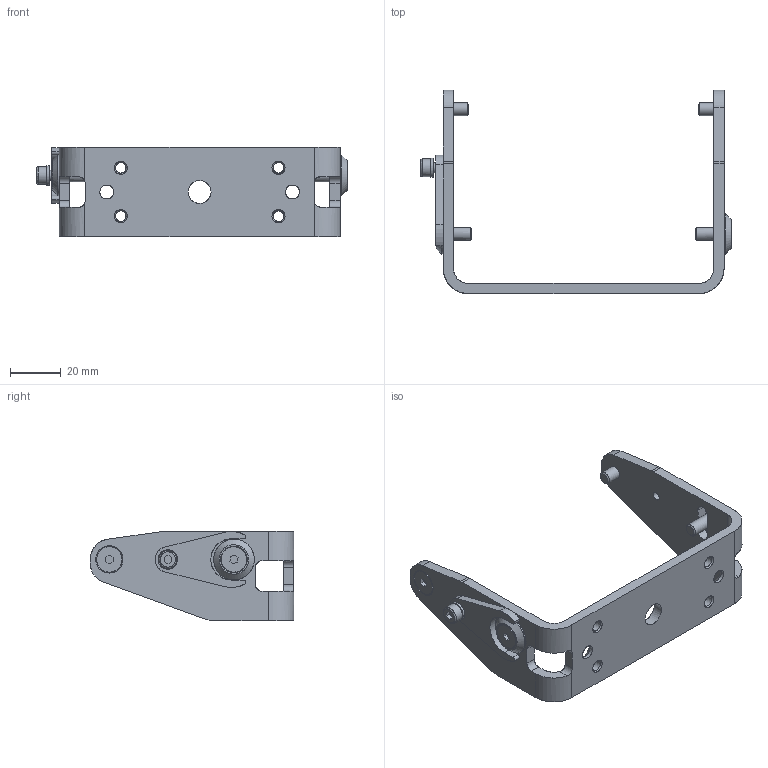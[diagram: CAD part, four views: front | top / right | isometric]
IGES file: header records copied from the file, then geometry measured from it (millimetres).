
Global section: file name: D:\CS\IDF\PCB\DSD-0813.igs; native system: NX V10.0; preprocessor: SIEMENS PLM Software NX 10.0; date: 20180611.122433; units: millimetre
Bounding box: 122 x 80 x 35 mm (x, y, z)
Surface area: 21703.9 mm2 (no closed solid volume)
Topology: 0 solids, 0 shells, 178 faces, 1873 edges, 1842 vertices
Faces by surface type: bspline 178
